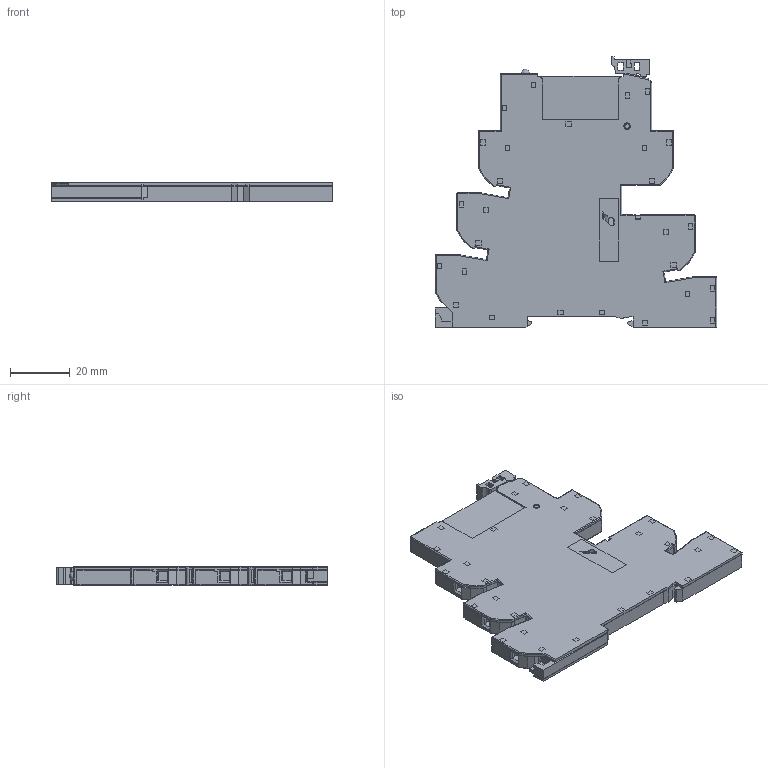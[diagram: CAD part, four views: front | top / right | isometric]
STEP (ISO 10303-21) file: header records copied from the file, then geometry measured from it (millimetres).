
FILE_DESCRIPTION(('STEP AP214'),'2;1');
FILE_NAME('3940=3481+9364.stp','2010-10-02T09:13:37',(''),(''),'2007.1.106','THINKDESIGN','');
FILE_SCHEMA(('AUTOMOTIVE_DESIGN'));
Products named in the file (1): None
Bounding box: 94.25 x 90.7 x 6.2 mm (x, y, z)
Surface area: 27619 mm2 (no closed solid volume)
Topology: 0 solids, 0 shells, 1198 faces, 8148 edges, 8130 vertices
Faces by surface type: plane 966, cylinder 190, bspline 42
Full cylindrical faces by diameter (mm): 2 x2, 2.2 x2, 3 x1, 3.9 x6
Entity records: 76902 total; most frequent: CARTESIAN_POINT 20418, DIRECTION 10076, COMPOSITE_CURVE_SEGMENT 8132, TRIMMED_CURVE 7449, VECTOR 7134, LINE 7134, AXIS2_PLACEMENT_3D 1471, OUTER_BOUNDARY_CURVE 1198
